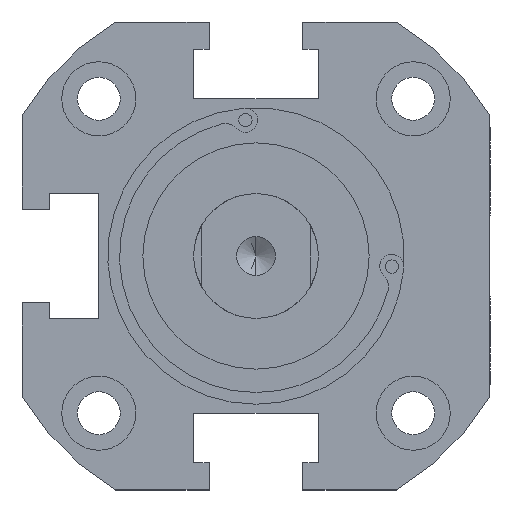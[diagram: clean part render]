
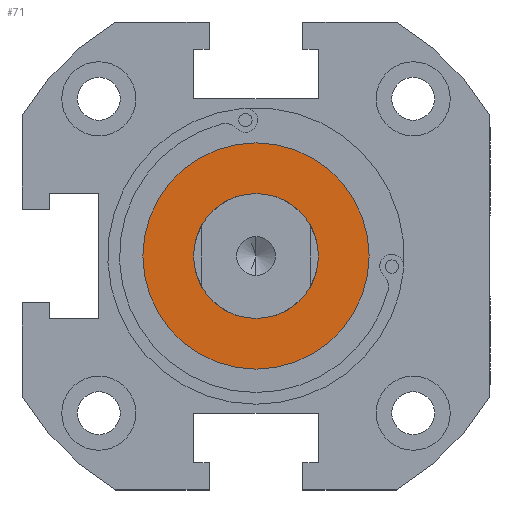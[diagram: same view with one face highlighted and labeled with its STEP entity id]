
A CAD part, front view. The second image highlights one B-rep face of the part: STEP entity #71.
In plain terms, the highlighted planar face has unit normal (0, -1, 0) as drawn and (0, 1, 0) by its records, which use the part's own axes.
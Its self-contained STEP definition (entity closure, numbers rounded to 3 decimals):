
#9 = FACE_OUTER_BOUND ( 'NONE', #2415, .T. ) ;
#28 = CARTESIAN_POINT ( 'NONE',  ( 0., 0., -8. ) ) ;
#59 = CARTESIAN_POINT ( 'NONE',  ( 0., 0., 0. ) ) ;
#71 = ADVANCED_FACE ( 'NONE', ( #1397, #9 ), #3349, .T. ) ;
#334 = DIRECTION ( 'NONE',  ( 0., 0., 1. ) ) ;
#433 = EDGE_CURVE ( 'NONE', #2352, #2559, #569, .T. ) ;
#448 = VERTEX_POINT ( 'NONE', #941 ) ;
#569 = CIRCLE ( 'NONE', #2405, 8. ) ;
#766 = CARTESIAN_POINT ( 'NONE',  ( 0., 0., 0. ) ) ;
#775 = AXIS2_PLACEMENT_3D ( 'NONE', #59, #914, #334 ) ;
#914 = DIRECTION ( 'NONE',  ( 0., 1., 0. ) ) ;
#941 = CARTESIAN_POINT ( 'NONE',  ( 0., 0., 14.5 ) ) ;
#961 = AXIS2_PLACEMENT_3D ( 'NONE', #1771, #1797, #2909 ) ;
#1026 = EDGE_CURVE ( 'NONE', #448, #3631, #3586, .T. ) ;
#1064 = EDGE_LOOP ( 'NONE', ( #1406, #2349 ) ) ;
#1149 = ORIENTED_EDGE ( 'NONE', *, *, #1026, .T. ) ;
#1166 = EDGE_CURVE ( 'NONE', #2559, #2352, #2414, .T. ) ;
#1204 = DIRECTION ( 'NONE',  ( 0., 0., 1. ) ) ;
#1237 = AXIS2_PLACEMENT_3D ( 'NONE', #3632, #3097, #3074 ) ;
#1306 = CARTESIAN_POINT ( 'NONE',  ( 0., 0., -14.5 ) ) ;
#1397 = FACE_BOUND ( 'NONE', #1064, .T. ) ;
#1406 = ORIENTED_EDGE ( 'NONE', *, *, #433, .F. ) ;
#1621 = DIRECTION ( 'NONE',  ( 0., 0., 1. ) ) ;
#1650 = AXIS2_PLACEMENT_3D ( 'NONE', #766, #1889, #1621 ) ;
#1771 = CARTESIAN_POINT ( 'NONE',  ( 0., 0., 0. ) ) ;
#1797 = DIRECTION ( 'NONE',  ( 0., 1., 0. ) ) ;
#1831 = ORIENTED_EDGE ( 'NONE', *, *, #3578, .T. ) ;
#1889 = DIRECTION ( 'NONE',  ( 0., 1., 0. ) ) ;
#2349 = ORIENTED_EDGE ( 'NONE', *, *, #1166, .F. ) ;
#2352 = VERTEX_POINT ( 'NONE', #28 ) ;
#2405 = AXIS2_PLACEMENT_3D ( 'NONE', #3188, #3176, #1204 ) ;
#2414 = CIRCLE ( 'NONE', #961, 8. ) ;
#2415 = EDGE_LOOP ( 'NONE', ( #1149, #1831 ) ) ;
#2559 = VERTEX_POINT ( 'NONE', #2652 ) ;
#2652 = CARTESIAN_POINT ( 'NONE',  ( 0., 0., 8. ) ) ;
#2909 = DIRECTION ( 'NONE',  ( 0., 0., 1. ) ) ;
#3055 = CIRCLE ( 'NONE', #1650, 14.5 ) ;
#3074 = DIRECTION ( 'NONE',  ( 0., 0., 1. ) ) ;
#3097 = DIRECTION ( 'NONE',  ( 0., 1., 0. ) ) ;
#3176 = DIRECTION ( 'NONE',  ( 0., 1., 0. ) ) ;
#3188 = CARTESIAN_POINT ( 'NONE',  ( 0., 0., 0. ) ) ;
#3349 = PLANE ( 'NONE',  #1237 ) ;
#3578 = EDGE_CURVE ( 'NONE', #3631, #448, #3055, .T. ) ;
#3586 = CIRCLE ( 'NONE', #775, 14.5 ) ;
#3631 = VERTEX_POINT ( 'NONE', #1306 ) ;
#3632 = CARTESIAN_POINT ( 'NONE',  ( 0., 0., 0. ) ) ;
